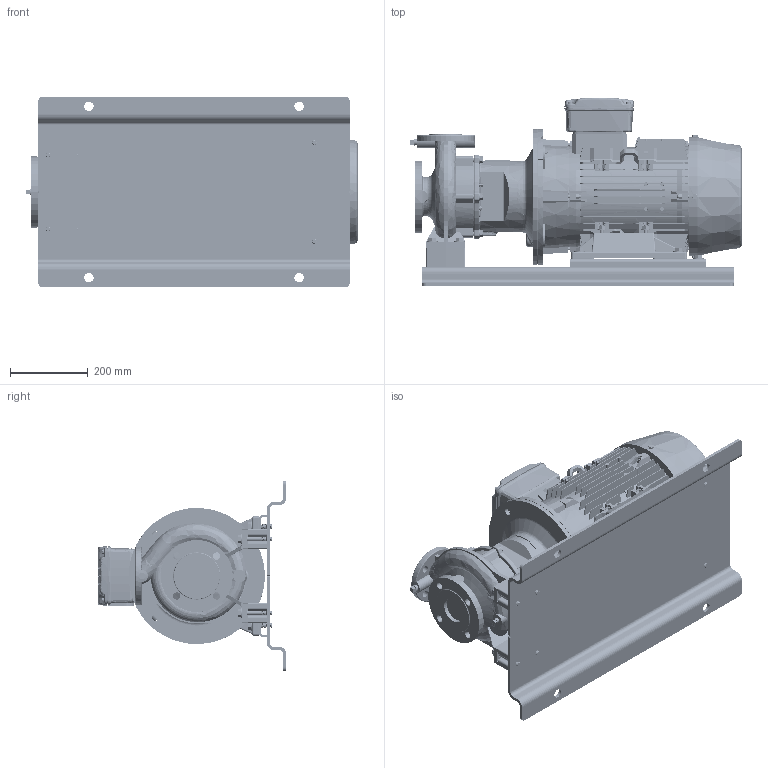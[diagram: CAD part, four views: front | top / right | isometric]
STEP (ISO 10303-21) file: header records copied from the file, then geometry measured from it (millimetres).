
FILE_DESCRIPTION (( 'STEP AP214' ), '1' );
FILE_NAME ('GSD2 40-160_11.0_(160ML)_W21_BP.STEP', '2024-04-04T23:23:31', ( '' ), ( '' ), 'SwSTEP 2.0', 'SolidWorks 2019', '' );
FILE_SCHEMA (( 'AUTOMOTIVE_DESIGN' ));
Length unit declared in the file: millimetre
Products named in the file (20): Parametric bolt and washer_SFT-A301B; Parametric bolt and washer_SFT-A319B; 210_254 x 20 - 271472113; 160M_L_ALIE3_W21T_B35; GSD2  40-160_11.0_(160ML)_W21_BP; CGS11-5301_2_3_4_5_CGS11-5301; Parametric bolt_SFT-A319B; Parametric bolt_SFT-A301B; 40-160-160M_L; Parametric Flat Washer_M12; N5S3 GSDA-531 F1-1832922-00; CGS11-5301_2_3_4_5_CGS11-5303
Assembly tree (39 placements, depth 3):
  GSD2  40-160_11.0_(160ML)_W21_BP
    40-160-160M_L
    N5S3 GSDA-531 F1-1832922-00
    CGS11-5301_2_3_4_5_CGS11-5301  x2
    CGS11-5301_2_3_4_5_CGS11-5303  x2
    210_254 x 20 - 271472113  x2
    Parametric bolt and washer_SFT-A319B
      Parametric bolt_SFT-A319B
      Parametric Flat Washer_M12
    Parametric bolt and washer_SFT-A319B
      Parametric bolt_SFT-A319B
      Parametric Flat Washer_M12
    Parametric bolt and washer_SFT-A319B
      Parametric bolt_SFT-A319B
      Parametric Flat Washer_M12
    Parametric bolt and washer_SFT-A319B
      Parametric bolt_SFT-A319B
      Parametric Flat Washer_M12
    Parametric bolt and washer_SFT-A301B
      Parametric bolt_SFT-A301B
      Parametric Flat Washer_M12
    Parametric bolt and washer_SFT-A301B
      Parametric bolt_SFT-A301B
      Parametric Flat Washer_M12
    Parametric bolt and washer_SFT-A301B
      Parametric bolt_SFT-A301B
      Parametric Flat Washer_M12
    Parametric bolt and washer_SFT-A301B
      Parametric bolt_SFT-A301B
      Parametric Flat Washer_M12
    Parametric bolt and washer_SFT-A301B
      Parametric bolt_SFT-A301B
      Parametric Flat Washer_M12
    Parametric bolt and washer_SFT-A301B
      Parametric bolt_SFT-A301B
      Parametric Flat Washer_M12
    160M_L_ALIE3_W21T_B35
Bounding box: 850.95 x 484.53 x 490 mm (x, y, z)
Volume: 45506142.8 mm3; surface area: 3729086.9 mm2
Topology: 67 solids, 73 shells, 6323 faces, 16473 edges, 10724 vertices
Faces by surface type: plane 3788, cylinder 1277, cone 553, bspline 432, torus 257, sphere 16
Entity records: 277052 total; most frequent: CARTESIAN_POINT 78519, ORIENTED_EDGE 30020, DIRECTION 25573, EDGE_CURVE 15010, VERTEX_POINT 9782, LINE 9595, VECTOR 9595, AXIS2_PLACEMENT_3D 7989
